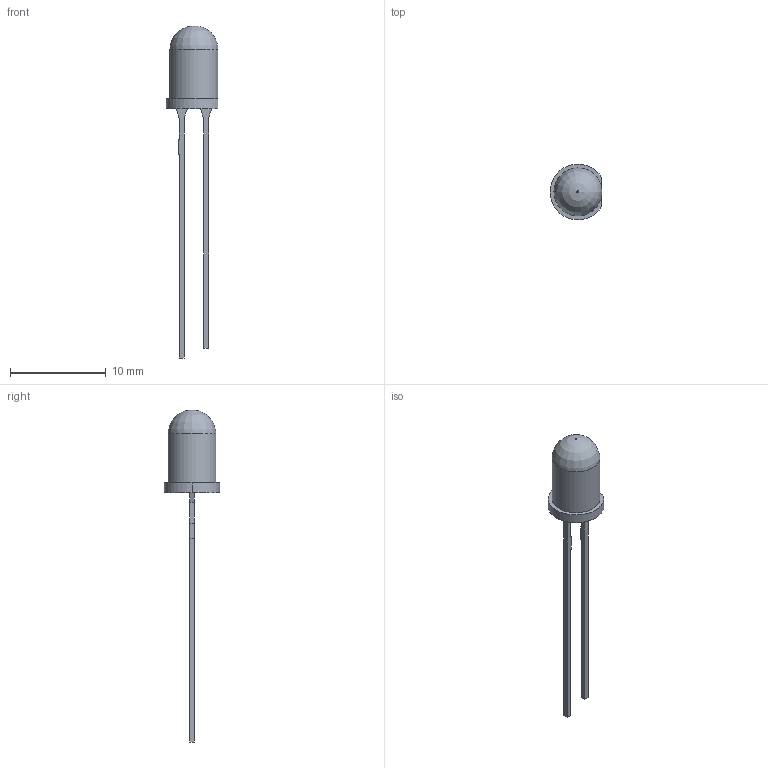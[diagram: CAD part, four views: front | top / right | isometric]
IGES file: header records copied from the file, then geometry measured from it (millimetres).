
Start section: Data from Parasolid IGES Translator 25.1.153, Copyright(c) 2006 Siemens PLM Software. All Rights Reserved.
Global section: file name: 62b6262f38b33e58a8b8d62f.iges; native system: By Siemens PLM Incorporated; preprocessor: XPlus GENERIC/IGES 25.1.153; author: Noname; organization: Noname; date: 20220624.210135; units: metre
Bounding box: 5.4 x 5.8 x 34.6 mm (x, y, z)
Surface area: 276.1 mm2 (no closed solid volume)
Topology: 0 solids, 0 shells, 97 faces, 508 edges, 506 vertices
Faces by surface type: extrusion 93, revolution 4
